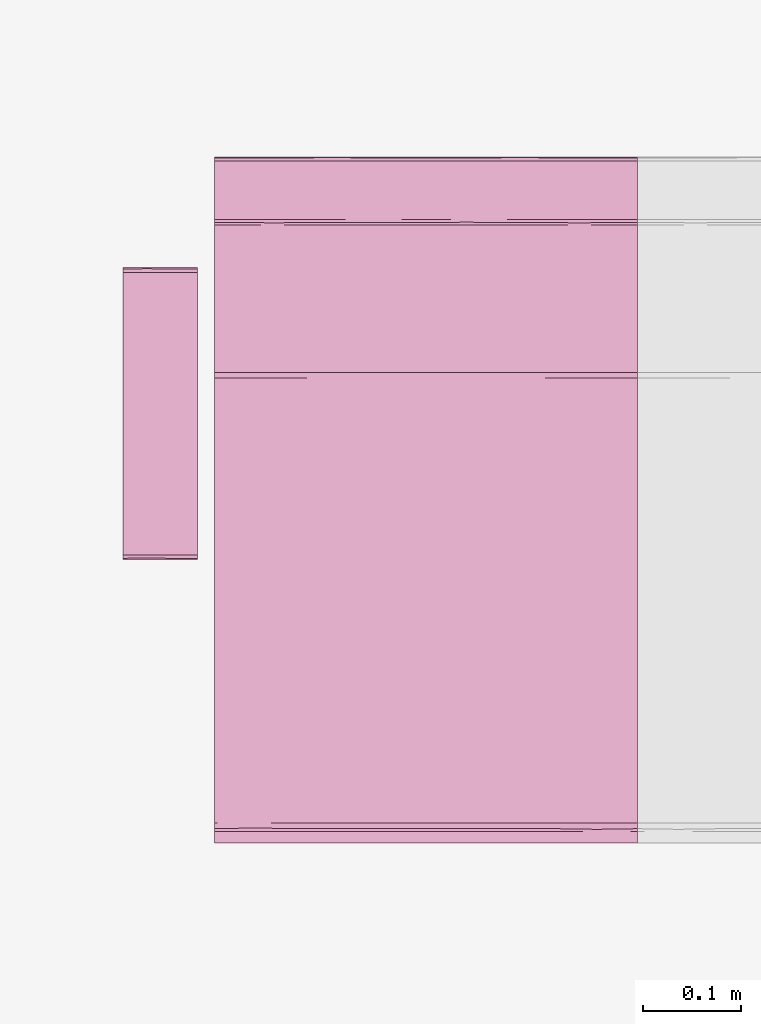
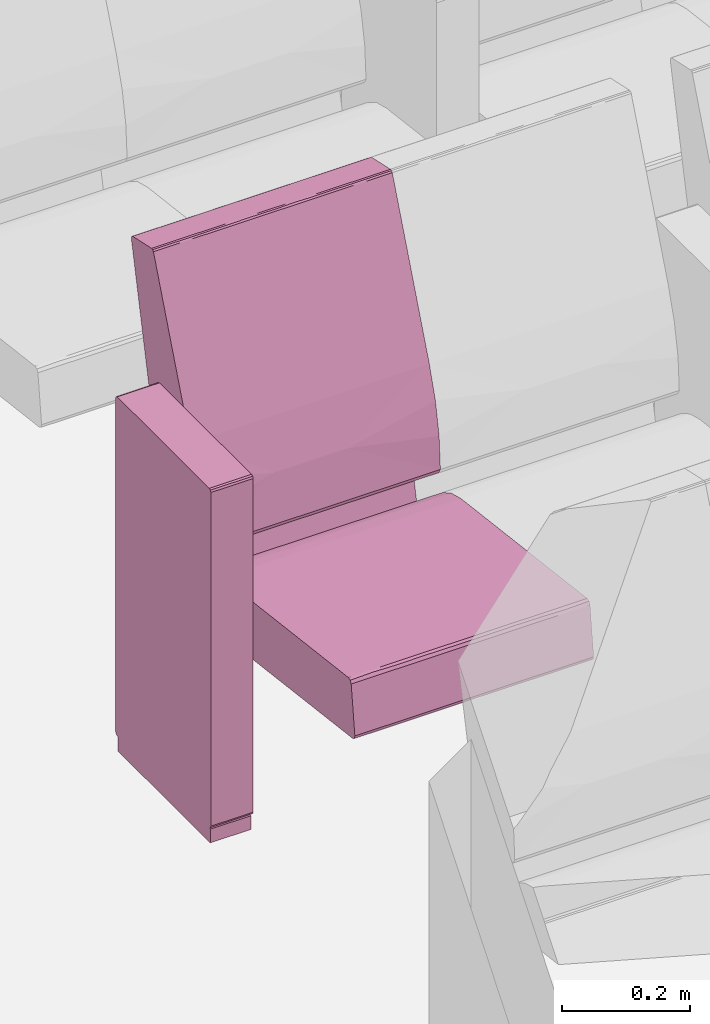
# One storey, part 125 of 155: 1 furnishing.
"""IFC2X3 building model written with IfcOpenShell, lengths in metres."""

from ifc_helpers import new_model, entity, si_unit, converted_unit, derived_unit, direction, frame, origin, place, context, subcontext, project, spatial, faceted_brep, source, transform, mapped, material, material_list, type_object, type_shapes, element, save


model = new_model("IFC2X3")

# Units and contexts
model_context = context("Model", 3, precision=1e-05, world=origin(), true_north=direction((6.12303176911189e-17, 1.0)))
body_context = subcontext(model_context, "Body", "Model", "MODEL_VIEW")
ifc_project = project(units=[si_unit("LENGTHUNIT", "METRE"), si_unit("AREAUNIT", "SQUARE_METRE"), si_unit("VOLUMEUNIT", "CUBIC_METRE"), converted_unit("PLANEANGLEUNIT", "DEGREE", entity("IfcRatioMeasure", 0.0174532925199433), si_unit("PLANEANGLEUNIT", "RADIAN"), dimensions=[0, 0, 0, 0, 0, 0, 0]), si_unit("MASSUNIT", "GRAM", prefix="KILO"), derived_unit("MASSDENSITYUNIT", [(si_unit("MASSUNIT", "GRAM", prefix="KILO"), 1), (si_unit("LENGTHUNIT", "METRE"), -3)]), si_unit("TIMEUNIT", "SECOND"), si_unit("FREQUENCYUNIT", "HERTZ"), si_unit("THERMODYNAMICTEMPERATUREUNIT", "DEGREE_CELSIUS"), derived_unit("THERMALTRANSMITTANCEUNIT", [(si_unit("MASSUNIT", "GRAM", prefix="KILO"), 1), (si_unit("THERMODYNAMICTEMPERATUREUNIT", "KELVIN"), -1), (si_unit("TIMEUNIT", "SECOND"), -3)]), derived_unit("VOLUMETRICFLOWRATEUNIT", [(si_unit("LENGTHUNIT", "METRE"), 3), (si_unit("TIMEUNIT", "SECOND"), -1)]), si_unit("ELECTRICCURRENTUNIT", "AMPERE"), si_unit("ELECTRICVOLTAGEUNIT", "VOLT"), si_unit("POWERUNIT", "WATT"), si_unit("FORCEUNIT", "NEWTON", prefix="KILO"), si_unit("ILLUMINANCEUNIT", "LUX"), si_unit("LUMINOUSFLUXUNIT", "LUMEN"), si_unit("LUMINOUSINTENSITYUNIT", "CANDELA"), derived_unit("USERDEFINED", [(si_unit("MASSUNIT", "GRAM", prefix="KILO"), -1), (si_unit("LENGTHUNIT", "METRE"), -2), (si_unit("TIMEUNIT", "SECOND"), 3), (si_unit("LUMINOUSFLUXUNIT", "LUMEN"), 1)]), derived_unit("LINEARVELOCITYUNIT", [(si_unit("LENGTHUNIT", "METRE"), 1), (si_unit("TIMEUNIT", "SECOND"), -1)]), si_unit("PRESSUREUNIT", "PASCAL"), derived_unit("USERDEFINED", [(si_unit("LENGTHUNIT", "METRE"), -2), (si_unit("MASSUNIT", "GRAM", prefix="KILO"), 1), (si_unit("TIMEUNIT", "SECOND"), -2)])], contexts=[model_context])

# Site, building, storey, space
site_placement = place(None, frame((26.9889013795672, -17.5624287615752, 0.0)))
site = spatial("IfcSite", under=ifc_project, at=site_placement, Name="Default", CompositionType="ELEMENT")
building_placement = place(site_placement, origin())
building = spatial("IfcBuilding", under=site, at=building_placement, Name="C. C. L. Monsenhor Antônio Sampaio", CompositionType="ELEMENT")
storey_placement = place(building_placement, frame((0.0, 0.0, 1.19999999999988)))
storey = spatial("IfcBuildingStorey", under=building, at=storey_placement, Name="Nível 1.2", CompositionType="ELEMENT", Elevation=1.19999999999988)
space_placement = place(storey_placement, origin())
space = spatial("IfcSpace", under=storey, at=space_placement, Name="94", CompositionType="ELEMENT", InteriorOrExteriorSpace="INTERNAL")

# Furnishing
ifc_material_1 = material(Name="V9 - V9 - Ecopelle_672_658")
ifc_material_2 = material(Name="V9 - V9 - RAL_9006_Grigio")
ifc_material_list_1 = material_list([ifc_material_1, ifc_material_2])
ifc_material_list_2 = material_list([ifc_material_1, ifc_material_2])
furniture_type = type_object("IfcFurnitureType", Name="Cadeira auditório", material=ifc_material_list_2)
shared_shape = source(origin(), body_context, "Body", "Brep", [
    faceted_brep([(0.405536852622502, 0.156348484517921, 0.339809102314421), (0.410560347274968, 0.131924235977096, 0.34246450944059), (0.405536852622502, 0.1075, 0.339809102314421), (0.405536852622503, 0.0537499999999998, 0.339809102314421), (0.410597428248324, 0.084060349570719, 0.342506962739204), (0.41079981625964, 0.0179166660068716, 0.342749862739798), (0.405536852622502, 0.215, 0.339809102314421), (0.410248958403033, 0.173608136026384, 0.342130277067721), (0.412515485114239, 0.185674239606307, 0.348529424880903), (0.412515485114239, 0.143333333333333, 0.348529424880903), (0.410560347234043, -0.131924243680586, 0.342464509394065), (0.405536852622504, -0.156348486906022, 0.33980910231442), (0.405536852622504, -0.1075, 0.33980910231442), (0.405536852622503, 0.0, 0.33980910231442), (0.41251548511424, 0.0, 0.348529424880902), (0.411170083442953, -0.0341365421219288, 0.343251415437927), (0.41059742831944, -0.0840603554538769, 0.342506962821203), (0.41251548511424, -0.143333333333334, 0.348529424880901), (0.412515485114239, 0.0358333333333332, 0.348529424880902), (0.412515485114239, 0.0716666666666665, 0.348529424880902), (0.405536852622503, -0.0537500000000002, 0.33980910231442), (0.412515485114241, -0.185674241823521, 0.348529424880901), (0.410799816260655, -0.215, 0.342749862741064), (0.410248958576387, -0.173608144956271, 0.342130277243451), (0.410799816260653, 0.215, 0.342749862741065), (0.412515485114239, 0.215, 0.348529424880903), (0.412515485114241, -0.215, 0.348529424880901), (0.41251548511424, -0.0716666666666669, 0.348529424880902), (0.405536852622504, -0.215, 0.33980910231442), (-0.0557900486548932, -0.215, 0.28268145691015), (-0.055790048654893, -0.168631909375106, 0.282681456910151), (-0.0557900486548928, -0.138065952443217, 0.282681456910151), (-0.0557900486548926, -0.107499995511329, 0.282681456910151), (-0.0557900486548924, -0.0806249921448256, 0.282681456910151), (-0.0557900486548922, -0.0537499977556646, 0.282681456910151), (-0.0557900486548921, -0.0268750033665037, 0.282681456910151), (-0.0557900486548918, 0.0, 0.28268145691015), (-0.0557900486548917, 0.0268749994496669, 0.282681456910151), (-0.0557900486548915, 0.0537499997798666, 0.282681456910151), (-0.0557900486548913, 0.0806250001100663, 0.282681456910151), (-0.0557900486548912, 0.107499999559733, 0.282681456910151), (-0.055790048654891, 0.134374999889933, 0.282681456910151), (-0.0557900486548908, 0.161250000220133, 0.282681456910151), (-0.0557900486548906, 0.1881249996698, 0.282681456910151), (-0.0557900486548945, 0.215, 0.28268145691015), (-0.0594787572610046, -0.0152829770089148, 0.283700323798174), (-0.0613666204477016, 0.0, 0.287029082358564), (-0.0594787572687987, 0.0179017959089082, 0.283700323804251), (-0.0613666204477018, 0.191815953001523, 0.287029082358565), (-0.0613666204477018, 0.215, 0.287029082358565), (-0.0594787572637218, 0.215, 0.283700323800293), (-0.0593340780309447, 0.0671874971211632, 0.283591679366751), (-0.0613666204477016, 0.030565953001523, 0.287029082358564), (-0.0594787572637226, -0.215, 0.283700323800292), (-0.0593337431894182, -0.184174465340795, 0.283591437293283), (-0.0613666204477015, -0.122263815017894, 0.287029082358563), (-0.0613666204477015, -0.0916978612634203, 0.287029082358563), (-0.0613666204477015, -0.0611319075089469, 0.287029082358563), (-0.0593023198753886, -0.0940625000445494, 0.283568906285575), (-0.059382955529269, 0.118123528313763, 0.28362747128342), (-0.0613666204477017, 0.122263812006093, 0.287029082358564), (-0.0597338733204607, 0.147039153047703, 0.283913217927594), (-0.0613666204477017, 0.168631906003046, 0.287029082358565), (-0.0592501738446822, 0.180223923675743, 0.283532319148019), (-0.0588783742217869, 0.0926899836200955, 0.283298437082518), (-0.0613666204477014, -0.215, 0.287029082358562), (-0.0613666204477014, -0.168631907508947, 0.287029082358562), (-0.0592576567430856, -0.123736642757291, 0.283537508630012), (-0.0594787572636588, -0.153348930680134, 0.283700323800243), (-0.0613666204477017, 0.0916978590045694, 0.287029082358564), (-0.0613666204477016, -0.0305659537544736, 0.287029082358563), (-0.059645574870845, -0.045848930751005, 0.283836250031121), (-0.0613666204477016, 0.0611319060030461, 0.287029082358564), (-0.069340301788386, -0.215, 0.351419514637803), (-0.0693403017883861, -0.143333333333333, 0.351419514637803), (-0.0693403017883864, -0.0716666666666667, 0.351419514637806), (-0.0693403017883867, 0.0, 0.351419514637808), (-0.069340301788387, 0.0716666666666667, 0.351419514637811), (-0.0693403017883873, 0.143333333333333, 0.351419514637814), (-0.0693403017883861, 0.215, 0.351419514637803), (-0.0597085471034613, 0.0, 0.37476954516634), (-0.0645543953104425, 0.112272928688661, 0.369803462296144), (-0.0653387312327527, 0.0126787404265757, 0.368680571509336), (-0.0681665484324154, -0.0888707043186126, 0.36292533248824), (-0.0655136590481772, -0.10440004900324, 0.368411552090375), (-0.0694879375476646, 0.0590582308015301, 0.356377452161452), (-0.0695056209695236, -0.125492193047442, 0.356093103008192), (-0.0597085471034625, -0.110316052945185, 0.374769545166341), (-0.0690003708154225, 0.132942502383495, 0.359900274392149), (-0.0672851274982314, 0.108066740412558, 0.365148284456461), (-0.0676206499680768, 0.215, 0.364371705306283), (-0.0686241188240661, 0.215, 0.356813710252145), (-0.0686241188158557, -0.214999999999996, 0.356813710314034), (-0.0686999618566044, 0.0358333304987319, 0.36116674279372), (-0.0694502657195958, -0.0358333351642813, 0.356863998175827), (-0.0676206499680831, -0.214999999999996, 0.364371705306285), (-0.0636645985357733, -0.214999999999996, 0.369570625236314), (-0.0597085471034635, -0.214999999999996, 0.374769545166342), (-0.0597085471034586, 0.215, 0.374769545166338), (-0.0636645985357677, 0.215, 0.36957062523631), (-0.0597085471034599, 0.110316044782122, 0.374769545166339), (-0.0324117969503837, 0.215, 0.390639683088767), (-0.0324117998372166, 0.0436847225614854, 0.39063968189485), (-0.0018793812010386, 0.215, 0.398686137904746), (-0.041847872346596, -0.0856576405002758, 0.386239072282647), (-0.0324117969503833, -0.215, 0.390639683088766), (-0.00187938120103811, -0.215, 0.398686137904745), (-0.00187938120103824, -0.102488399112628, 0.398686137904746), (-0.0219042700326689, -0.0570631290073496, 0.394412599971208), (-0.00187938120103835, 0.0, 0.398686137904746), (0.392202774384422, 0.215, 0.447486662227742), (0.392202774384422, -0.215, 0.447486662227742), (0.392202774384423, -0.156349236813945, 0.447486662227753), (0.392202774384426, -0.107499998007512, 0.447486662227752), (0.392202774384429, -0.0537500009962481, 0.44748666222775), (0.392202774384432, 0.0, 0.447486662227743), (0.392202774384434, 0.0537499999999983, 0.447486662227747), (0.392202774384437, 0.107499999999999, 0.447486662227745), (0.392202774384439, 0.156349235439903, 0.447486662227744), (0.398104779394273, -0.131924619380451, 0.445856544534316), (0.401125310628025, -0.0976984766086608, 0.440530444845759), (0.397860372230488, -0.0827732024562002, 0.446039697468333), (0.401125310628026, -0.215000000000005, 0.440530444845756), (0.401125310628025, -0.156349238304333, 0.440530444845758), (0.397373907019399, -0.173462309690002, 0.446363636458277), (0.398104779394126, -0.215000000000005, 0.445856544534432), (0.397860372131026, 0.0827731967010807, 0.446039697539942), (0.398104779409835, 0.131924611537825, 0.445856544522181), (0.398104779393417, -0.0237489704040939, 0.445856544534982), (0.398104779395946, 0.0268749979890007, 0.445856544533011), (0.401125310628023, 0.0488492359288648, 0.440530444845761), (0.401125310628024, -0.0488492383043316, 0.440530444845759), (0.398774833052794, 0.173462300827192, 0.445271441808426), (0.401125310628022, 0.097698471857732, 0.440530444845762), (0.401125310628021, 0.215, 0.440530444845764), (0.39810477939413, 0.215, 0.445856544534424), (0.401125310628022, 0.156349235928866, 0.440530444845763), (0.401125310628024, 0.0, 0.44053044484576)], [[[0, 1, 2]], [[3, 4, 5]], [[6, 7, 0]], [[7, 8, 9]], [[10, 11, 12]], [[3, 5, 13]], [[14, 15, 5]], [[16, 17, 10]], [[9, 1, 7]], [[18, 5, 4]], [[4, 9, 19, 18]], [[9, 4, 1]], [[2, 1, 4]], [[13, 15, 20]], [[21, 22, 23]], [[5, 18, 14]], [[24, 25, 8]], [[22, 21, 26]], [[24, 7, 6]], [[23, 11, 10]], [[20, 15, 16]], [[3, 2, 4]], [[14, 27, 15]], [[5, 15, 13]], [[27, 17, 16]], [[10, 12, 16]], [[21, 23, 17]], [[20, 16, 12]], [[15, 27, 16]], [[7, 1, 0]], [[28, 11, 23]], [[8, 7, 24]], [[23, 10, 17]], [[28, 23, 22]], [[28, 29, 30, 31, 32, 33, 34, 35, 36, 37, 38, 39, 40, 41, 42, 43, 44, 6, 0, 2, 3, 13, 20, 12, 11]], [[45, 46, 47]], [[48, 49, 50]], [[51, 47, 52]], [[29, 53, 54]], [[55, 56, 57, 58]], [[59, 60, 61]], [[61, 62, 63]], [[51, 64, 39]], [[65, 66, 54]], [[31, 67, 32]], [[45, 47, 38, 37, 36, 35]], [[68, 31, 30]], [[43, 50, 44]], [[63, 42, 61]], [[48, 50, 63]], [[64, 69, 59]], [[68, 54, 66]], [[63, 62, 48]], [[50, 43, 63]], [[67, 55, 58]], [[61, 42, 41]], [[45, 70, 46]], [[55, 68, 66]], [[71, 33, 58]], [[71, 57, 70]], [[41, 40, 59]], [[60, 62, 61]], [[71, 35, 34, 33]], [[35, 71, 45]], [[47, 46, 52]], [[45, 71, 70]], [[58, 57, 71]], [[32, 58, 33]], [[31, 68, 67]], [[54, 68, 30]], [[29, 54, 30]], [[54, 53, 65]], [[55, 67, 68]], [[32, 67, 58]], [[51, 52, 72, 69]], [[43, 42, 63]], [[41, 59, 61]], [[47, 51, 38]], [[40, 39, 64]], [[38, 51, 39]], [[69, 60, 59]], [[69, 64, 51]], [[40, 64, 59]], [[65, 73, 74, 75, 76, 77, 78, 79, 49, 48, 62, 60, 69, 72, 52, 46, 70, 57, 56, 55, 66]], [[80, 81, 82]], [[82, 83, 84]], [[78, 77, 76, 85]], [[86, 75, 74]], [[84, 80, 82]], [[80, 84, 87]], [[88, 89, 90]], [[91, 79, 78]], [[74, 73, 92]], [[85, 88, 91]], [[81, 89, 82]], [[93, 94, 83]], [[94, 86, 83]], [[85, 76, 94]], [[92, 86, 74]], [[85, 94, 93]], [[83, 92, 95]], [[75, 94, 76]], [[93, 83, 82]], [[95, 96, 84]], [[88, 85, 93]], [[96, 97, 87]], [[98, 99, 100]], [[78, 85, 91]], [[89, 88, 93]], [[90, 91, 88]], [[93, 82, 89]], [[81, 99, 89]], [[99, 90, 89]], [[100, 81, 80]], [[100, 99, 81]], [[83, 86, 92]], [[75, 86, 94]], [[95, 84, 83]], [[87, 84, 96]], [[101, 102, 103]], [[104, 80, 87, 97]], [[105, 106, 107]], [[107, 108, 105]], [[103, 102, 109]], [[104, 102, 80]], [[104, 108, 102]], [[98, 102, 101]], [[105, 104, 97]], [[105, 108, 104]], [[102, 98, 100, 80]], [[109, 108, 107]], [[109, 102, 108]], [[110, 103, 109, 107, 106, 111, 112, 113, 114, 115, 116, 117, 118]], [[119, 120, 121]], [[122, 123, 124]], [[111, 125, 124]], [[117, 116, 126]], [[124, 119, 112]], [[113, 112, 119]], [[127, 118, 117]], [[115, 114, 128, 129, 116]], [[129, 130, 126]], [[121, 131, 128]], [[127, 132, 118]], [[110, 118, 132]], [[127, 126, 133]], [[119, 124, 123]], [[134, 135, 132]], [[136, 132, 127]], [[120, 119, 123]], [[133, 136, 127]], [[137, 130, 129, 128, 131]], [[126, 127, 117]], [[130, 133, 126]], [[113, 119, 121]], [[129, 126, 116]], [[128, 114, 121]], [[114, 113, 121]], [[131, 121, 120]], [[111, 124, 112]], [[124, 125, 122]], [[134, 132, 136]], [[132, 135, 110]], [[19, 9, 8, 25, 134, 136, 133, 130, 137, 131, 120, 123, 122, 26, 21, 17, 27, 14, 18]], [[65, 53, 29, 28, 22, 26, 122, 125, 111, 106, 105, 97, 96, 95, 92, 73]], [[98, 101, 103, 110, 135, 134, 25, 24, 6, 44, 50, 49, 79, 91, 90, 99]]]),
    faceted_brep([(0.123144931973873, -0.283972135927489, 0.673627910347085), (0.12334838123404, -0.259944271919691, 0.6734355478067), (0.119812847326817, -0.27, 0.674900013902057), (0.124812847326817, -0.27, 0.669900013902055), (0.12334838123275, -0.232, 0.673435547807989), (0.119812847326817, -0.232, 0.674900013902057), (0.124812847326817, -0.308, 0.669900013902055), (0.119812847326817, -0.308, 0.674900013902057), (0.124812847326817, -0.249888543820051, 0.669900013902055), (0.124812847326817, -0.232, 0.669900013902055), (0.12334838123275, -0.308, 0.673435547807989), (0.124812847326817, -0.27, 0.035), (0.124812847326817, -0.232, 0.035), (0.124812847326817, -0.308, 0.0350000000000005), (0.123540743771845, -0.283972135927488, 0.0316679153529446), (0.12334838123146, -0.25994427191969, 0.0314644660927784), (0.119812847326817, -0.27, 0.0300000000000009), (0.12334838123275, -0.232, 0.0314644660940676), (0.119812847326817, -0.308, 0.0300000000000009), (0.119812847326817, -0.249888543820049, 0.030000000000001), (0.119812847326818, -0.232, 0.030000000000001), (0.123348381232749, -0.308, 0.0314644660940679), (-0.167179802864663, -0.308, 0.0300000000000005), (-0.167179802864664, -0.27, 0.0300000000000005), (-0.167179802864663, -0.232, 0.0300000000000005), (-0.17051188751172, -0.283972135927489, 0.0312721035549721), (-0.170715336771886, -0.25994427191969, 0.0314644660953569), (-0.172179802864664, -0.27, 0.0350000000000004), (-0.170715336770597, -0.232, 0.0314644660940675), (-0.172179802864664, -0.308, 0.0350000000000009), (-0.172179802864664, -0.24988854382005, 0.0350000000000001), (-0.172179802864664, -0.232, 0.0349999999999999), (-0.170715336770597, -0.308, 0.0314644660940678), (-0.172179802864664, -0.308, 0.669900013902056), (-0.172179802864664, -0.27, 0.669900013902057), (-0.172179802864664, -0.232, 0.669900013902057), (-0.170907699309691, -0.283972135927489, 0.673232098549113), (-0.170715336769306, -0.259944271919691, 0.673435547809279), (-0.167179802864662, -0.27, 0.674900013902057), (-0.170715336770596, -0.232, 0.67343554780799), (-0.167179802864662, -0.308, 0.674900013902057), (-0.167179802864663, -0.249888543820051, 0.674900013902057), (-0.167179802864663, -0.232, 0.674900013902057), (-0.170715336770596, -0.308, 0.67343554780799)], [[[0, 1, 2]], [[1, 0, 3]], [[1, 4, 5, 2]], [[6, 3, 0]], [[7, 0, 2]], [[4, 1, 3, 8, 9]], [[10, 0, 7]], [[0, 10, 6]], [[11, 12, 9, 8, 3, 6, 13]], [[14, 15, 11]], [[15, 14, 16]], [[15, 17, 12, 11]], [[18, 16, 14]], [[13, 14, 11]], [[17, 15, 16, 19, 20]], [[21, 14, 13]], [[14, 21, 18]], [[18, 22, 23, 24, 20, 19, 16]], [[25, 26, 23]], [[26, 25, 27]], [[26, 28, 24, 23]], [[29, 27, 25]], [[22, 25, 23]], [[28, 26, 27, 30, 31]], [[32, 25, 22]], [[25, 32, 29]], [[27, 29, 33, 34, 35, 31, 30]], [[36, 37, 34]], [[37, 36, 38]], [[37, 39, 35, 34]], [[40, 38, 36]], [[33, 36, 34]], [[39, 37, 38, 41, 42]], [[43, 36, 33]], [[36, 43, 40]], [[40, 7, 2, 5, 42, 41, 38]], [[35, 39, 42, 5, 4, 9, 12, 17, 20, 24, 28, 31]], [[29, 32, 22, 18, 21, 13, 6, 10, 7, 40, 43, 33]]]),
    faceted_brep([(-0.0695672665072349, 0.215, 0.476508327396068), (-0.074405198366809, 0.0524423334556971, 0.506888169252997), (-0.0655618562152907, 0.215, 0.415143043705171), (-0.0744051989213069, -0.0780075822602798, 0.506888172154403), (-0.0655618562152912, 0.0, 0.415143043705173), (-0.0655618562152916, -0.215, 0.415143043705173), (-0.0655618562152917, -0.1075, 0.415143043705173), (-0.0655618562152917, 0.1075, 0.415143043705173), (-0.0695672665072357, -0.215, 0.476508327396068), (-0.081111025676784, -0.215, 0.536911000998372), (-0.0811110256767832, 0.215, 0.536911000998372), (-0.100016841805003, 0.215, 0.595428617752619), (-0.100016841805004, 0.0, 0.595428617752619), (-0.100016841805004, -0.215, 0.595428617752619), (-0.0698317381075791, 0.0358333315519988, 0.406528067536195), (-0.0792851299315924, 0.0, 0.404772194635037), (-0.0792851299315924, 0.0716666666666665, 0.404772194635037), (-0.0792851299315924, -0.215, 0.404772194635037), (-0.0792851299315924, -0.143333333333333, 0.404772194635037), (-0.0698317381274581, -0.215, 0.406528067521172), (-0.0792851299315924, 0.143333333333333, 0.404772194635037), (-0.0792851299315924, 0.215, 0.404772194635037), (-0.0698317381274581, 0.215, 0.406528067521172), (-0.0694171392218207, 0.140338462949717, 0.406857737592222), (-0.0708115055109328, -0.0356393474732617, 0.405868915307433), (-0.0703502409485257, -0.107500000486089, 0.406159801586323), (-0.0792851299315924, -0.0716666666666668, 0.404772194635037), (-0.163837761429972, -0.215, 0.420611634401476), (-0.163837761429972, 0.215, 0.420611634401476), (-0.123612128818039, 0.215, 0.235917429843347), (-0.123612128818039, -0.215, 0.235917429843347), (-0.142059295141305, -0.215, 0.231899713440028), (-0.142059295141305, 0.215, 0.231899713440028), (-0.235388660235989, -0.215, 0.652619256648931), (-0.235388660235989, 0.215, 0.652619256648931), (-0.28428001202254, -0.215, 0.873004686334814), (-0.284280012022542, -0.191295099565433, 0.873004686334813), (-0.284280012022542, -0.161249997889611, 0.873004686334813), (-0.284280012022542, -0.134374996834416, 0.873004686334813), (-0.284280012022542, -0.107499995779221, 0.873004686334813), (-0.284280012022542, -0.0806249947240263, 0.873004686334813), (-0.284280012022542, -0.0537499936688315, 0.873004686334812), (-0.284280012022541, -0.0268749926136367, 0.873004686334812), (-0.28428001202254, 0.0, 0.873004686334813), (-0.284280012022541, 0.0268749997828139, 0.873004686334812), (-0.284280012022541, 0.0537500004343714, 0.873004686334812), (-0.284280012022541, 0.0806250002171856, 0.873004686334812), (-0.284280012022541, 0.1075, 0.873004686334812), (-0.284280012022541, 0.134374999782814, 0.873004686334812), (-0.28428001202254, 0.161249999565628, 0.873004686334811), (-0.28428001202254, 0.191295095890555, 0.873004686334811), (-0.28428001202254, 0.215, 0.873004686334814), (-0.283746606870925, 0.0872244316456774, 0.876674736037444), (-0.283504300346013, 0.0569644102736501, 0.877068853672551), (-0.283567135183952, -0.15546176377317, 0.876973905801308), (-0.283641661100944, -0.12093750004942, 0.87685511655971), (-0.283567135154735, 0.155461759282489, 0.876973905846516), (-0.28330409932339, 0.185293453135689, 0.877344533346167), (-0.283641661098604, 0.0179166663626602, 0.876855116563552), (-0.283641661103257, -0.0136463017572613, 0.876855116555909), (-0.280514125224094, -0.0358333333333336, 0.879190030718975), (-0.280514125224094, 0.0, 0.879190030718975), (-0.280514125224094, 0.0358333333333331, 0.879190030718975), (-0.280514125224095, -0.143333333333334, 0.879190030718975), (-0.280514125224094, -0.1075, 0.879190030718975), (-0.280514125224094, -0.071666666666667, 0.879190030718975), (-0.283746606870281, -0.0872244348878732, 0.876674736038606), (-0.280514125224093, 0.0716666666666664, 0.879190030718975), (-0.280514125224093, 0.1075, 0.879190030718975), (-0.283641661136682, 0.120937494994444, 0.876855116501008), (-0.280514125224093, 0.143333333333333, 0.879190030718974), (-0.283641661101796, 0.215, 0.876855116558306), (-0.283641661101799, -0.215, 0.876855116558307), (-0.283304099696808, -0.18529345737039, 0.877344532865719), (-0.280514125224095, -0.167590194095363, 0.879190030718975), (-0.280514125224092, 0.215, 0.879190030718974), (-0.280514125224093, 0.167590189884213, 0.879190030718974), (-0.280514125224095, -0.215, 0.879190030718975), (-0.283504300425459, -0.0569644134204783, 0.8770688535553), (-0.22111253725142, 0.215, 0.892176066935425), (-0.22111253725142, -0.215, 0.892176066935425), (-0.221112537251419, -0.191815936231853, 0.892176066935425), (-0.221112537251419, -0.161250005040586, 0.892176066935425), (-0.221112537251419, -0.134375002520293, 0.892176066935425), (-0.221112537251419, -0.1075, 0.892176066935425), (-0.221112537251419, -0.080624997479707, 0.892176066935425), (-0.221112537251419, -0.0537499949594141, 0.892176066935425), (-0.221112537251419, -0.0268750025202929, 0.892176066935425), (-0.221112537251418, 0.0, 0.892176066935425), (-0.221112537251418, 0.0268750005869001, 0.892176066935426), (-0.221112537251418, 0.05375000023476, 0.892176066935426), (-0.221112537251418, 0.0806249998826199, 0.892176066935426), (-0.221112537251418, 0.10749999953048, 0.892176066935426), (-0.221112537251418, 0.13437499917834, 0.892176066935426), (-0.221112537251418, 0.16124999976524, 0.892176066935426), (-0.221112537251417, 0.19181594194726, 0.892176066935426), (-0.215419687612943, 0.0, 0.889191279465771), (-0.215419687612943, 0.0358333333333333, 0.889191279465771), (-0.217722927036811, 0.0162353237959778, 0.891719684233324), (-0.217722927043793, -0.0134375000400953, 0.891719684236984), (-0.215419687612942, -0.191815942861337, 0.889191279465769), (-0.215419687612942, -0.168631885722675, 0.889191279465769), (-0.217722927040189, -0.182482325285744, 0.891719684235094), (-0.217722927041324, -0.215, 0.891719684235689), (-0.215419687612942, -0.215, 0.889191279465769), (-0.215419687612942, -0.1075, 0.88919127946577), (-0.215419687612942, -0.0716666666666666, 0.88919127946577), (-0.217722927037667, -0.0912646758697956, 0.891719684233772), (-0.217722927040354, -0.120937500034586, 0.89171968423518), (-0.215419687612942, -0.143333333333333, 0.88919127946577), (-0.215419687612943, 0.191815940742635, 0.889191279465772), (-0.215419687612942, 0.215, 0.889191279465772), (-0.217722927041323, 0.215, 0.89171968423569), (-0.217722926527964, 0.190103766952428, 0.891719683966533), (-0.217722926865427, 0.0912646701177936, 0.891719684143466), (-0.217816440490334, 0.0647800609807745, 0.891767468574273), (-0.215419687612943, 0.0716666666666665, 0.889191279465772), (-0.217816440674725, -0.0647800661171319, 0.891767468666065), (-0.2179983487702, -0.0390825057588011, 0.891853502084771), (-0.217558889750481, -0.155982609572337, 0.891629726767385), (-0.217722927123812, 0.120937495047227, 0.891719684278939), (-0.215419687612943, 0.16863188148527, 0.889191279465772), (-0.215419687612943, 0.143333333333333, 0.889191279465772), (-0.217558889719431, 0.15598260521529, 0.891629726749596), (-0.215419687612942, -0.0358333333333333, 0.889191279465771), (-0.215419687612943, 0.1075, 0.889191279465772), (-0.218257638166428, 0.0404491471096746, 0.891961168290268)], [[[0, 1, 2]], [[1, 3, 4]], [[3, 5, 6, 4]], [[1, 4, 7, 2]], [[5, 3, 8]], [[8, 3, 9]], [[0, 10, 1]], [[11, 12, 1]], [[3, 13, 9]], [[3, 12, 13]], [[11, 1, 10]], [[3, 1, 12]], [[14, 15, 16]], [[17, 18, 19]], [[20, 21, 22]], [[2, 23, 22]], [[14, 7, 4]], [[14, 24, 15]], [[6, 25, 24]], [[22, 23, 20]], [[14, 23, 7]], [[19, 6, 5]], [[4, 24, 14]], [[16, 23, 14]], [[16, 20, 23]], [[26, 25, 18]], [[25, 19, 18]], [[15, 24, 26]], [[23, 2, 7]], [[19, 25, 6]], [[26, 24, 25]], [[6, 24, 4]], [[15, 26, 18, 17, 27, 28, 21, 20, 16]], [[29, 28, 27, 30]], [[30, 31, 32, 29]], [[32, 31, 33, 34]], [[34, 33, 35, 36, 37, 38, 39, 40, 41, 42, 43, 44, 45, 46, 47, 48, 49, 50, 51]], [[52, 46, 53]], [[38, 54, 55]], [[56, 57, 49]], [[58, 59, 60, 61, 62]], [[63, 64, 55]], [[64, 65, 66]], [[52, 67, 68]], [[69, 70, 56]], [[49, 57, 50]], [[38, 55, 39]], [[71, 51, 50]], [[36, 35, 72]], [[59, 58, 44, 43, 42]], [[73, 74, 54]], [[55, 66, 39]], [[75, 57, 76]], [[77, 74, 73]], [[69, 52, 68]], [[37, 36, 73]], [[54, 74, 63]], [[56, 76, 57]], [[36, 72, 73]], [[75, 71, 57]], [[70, 76, 56]], [[52, 69, 47]], [[48, 47, 69]], [[42, 78, 59]], [[66, 55, 64]], [[50, 57, 71]], [[73, 54, 37]], [[77, 73, 72]], [[48, 69, 56]], [[56, 49, 48]], [[69, 68, 70]], [[53, 46, 45, 44]], [[58, 62, 53]], [[53, 44, 58]], [[38, 37, 54]], [[63, 55, 54]], [[78, 66, 65]], [[78, 40, 66]], [[67, 52, 53]], [[78, 42, 41, 40]], [[65, 60, 78]], [[59, 78, 60]], [[52, 47, 46]], [[40, 39, 66]], [[62, 67, 53]], [[79, 75, 76, 70, 68, 67, 62, 61, 60, 65, 64, 63, 74, 77, 80, 81, 82, 83, 84, 85, 86, 87, 88, 89, 90, 91, 92, 93, 94, 95]], [[96, 97, 98, 99]], [[100, 101, 102, 103, 104]], [[105, 106, 107, 108, 109]], [[110, 111, 112]], [[113, 112, 95]], [[114, 115, 116]], [[117, 118, 86]], [[82, 119, 83]], [[102, 82, 81, 80, 103]], [[112, 79, 95]], [[108, 107, 85, 84, 83]], [[88, 87, 99, 98, 89]], [[119, 101, 109]], [[93, 92, 120]], [[117, 85, 107]], [[113, 121, 110]], [[122, 121, 123]], [[113, 94, 123]], [[124, 99, 118]], [[122, 123, 120]], [[108, 119, 109]], [[113, 110, 112]], [[102, 101, 119]], [[119, 108, 83]], [[114, 125, 120]], [[123, 94, 93]], [[93, 120, 123]], [[114, 120, 92]], [[122, 120, 125]], [[117, 107, 106]], [[114, 92, 91]], [[116, 125, 114]], [[115, 91, 90]], [[85, 117, 86]], [[126, 89, 98]], [[117, 106, 124]], [[118, 99, 87]], [[124, 96, 99]], [[97, 116, 115]], [[97, 115, 126]], [[86, 118, 87]], [[124, 118, 117]], [[91, 115, 114]], [[115, 90, 126]], [[89, 126, 90]], [[97, 126, 98]], [[82, 102, 119]], [[94, 113, 95]], [[121, 113, 123]], [[11, 111, 110, 121, 122, 125, 116, 97, 96, 124, 106, 105, 109, 101, 100, 104, 13, 12]], [[27, 17, 19, 5, 8, 9, 13, 104, 103, 80, 77, 72, 35, 33, 31, 30]], [[51, 71, 75, 79, 112, 111, 11, 10, 0, 2, 22, 21, 28, 29, 32, 34]]]),
    faceted_brep([(0.120312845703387, -0.2335, 0.0), (0.120312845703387, -0.2335, 0.0260000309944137), (0.120312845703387, -0.249500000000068, 0.0260000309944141), (0.120312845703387, -0.27, 0.0260000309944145), (0.120312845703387, -0.3065, 0.0260000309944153), (0.120312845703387, -0.3065, 0.0), (-0.167687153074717, -0.3065, 0.0), (-0.167687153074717, -0.2335, 0.0), (-0.167687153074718, -0.27, 0.0260000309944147), (-0.167687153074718, -0.2335, 0.0260000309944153), (-0.167687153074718, -0.3065, 0.0260000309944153), (-0.166521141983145, -0.233500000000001, 0.0288228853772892), (-0.166521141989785, -0.257382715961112, 0.0288228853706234), (-0.163702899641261, -0.233500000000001, 0.0300000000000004), (-0.163702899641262, -0.3065, 0.0300000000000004), (-0.16652114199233, -0.279986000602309, 0.0288228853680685), (-0.166521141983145, -0.3065, 0.0288228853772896), (-0.163702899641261, -0.27, 0.0300000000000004), (0.116297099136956, -0.3065, 0.0300000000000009), (0.116297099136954, -0.269999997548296, 0.0300000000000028), (0.116297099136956, -0.2335, 0.0300000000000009), (0.119033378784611, -0.283124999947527, 0.0289323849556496), (0.1191357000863, -0.2335, 0.0288340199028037), (0.119135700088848, -0.259750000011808, 0.0288340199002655), (0.119135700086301, -0.3065, 0.0288340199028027)], [[[0, 1, 2, 3, 4, 5]], [[0, 5, 6, 7]], [[8, 9, 7, 6, 10]], [[11, 12, 13]], [[14, 15, 16]], [[15, 14, 17, 13, 12]], [[9, 8, 12, 11]], [[16, 15, 10]], [[8, 10, 15, 12]], [[14, 18, 19, 20, 13, 17]], [[21, 4, 3]], [[22, 20, 19, 23]], [[3, 2, 1, 22, 23]], [[24, 21, 18]], [[21, 3, 23]], [[18, 21, 19]], [[21, 24, 4]], [[21, 23, 19]], [[6, 5, 4, 24, 18, 14, 16, 10]], [[7, 9, 11, 13, 20, 22, 1, 0]]]),
])
type_shapes(furniture_type, [shared_shape])
furnishing_placement = place(space_placement, frame((-9.03594929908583, -11.4021989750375, 0.0), z_axis=(0.0, 0.0, 1.0), x_axis=(0.0, -1.0, 0.0)))
element("IfcFurnishingElement", 1, at=furnishing_placement, inside=space, type_object=furniture_type, material=ifc_material_list_1, Name="cadeira auditório pcd:Cadeira auditório", ObjectType="Cadeira auditório", context=body_context, shape_type="MappedRepresentation", body=[
    mapped(shared_shape, transform((0.0, 0.0, 0.0), scale=1.0)),
])

save(model, "model.ifc")
